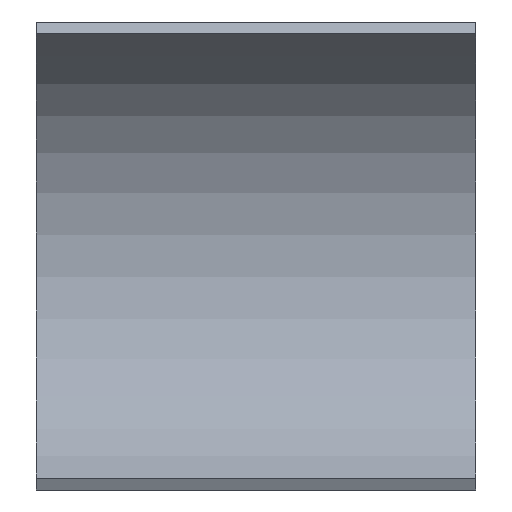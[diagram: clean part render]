
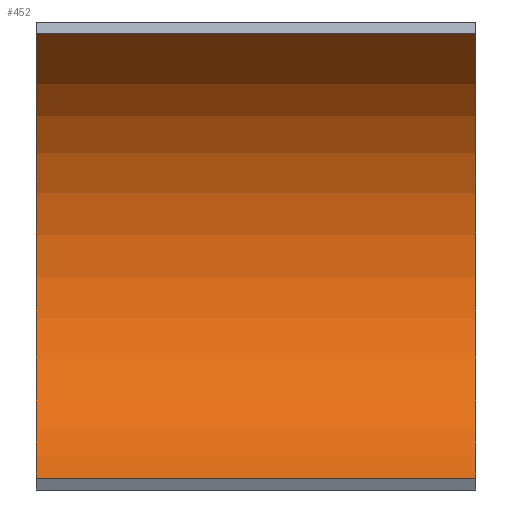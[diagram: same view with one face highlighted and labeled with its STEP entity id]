
A CAD part, top view. The second image highlights one B-rep face of the part: STEP entity #452.
In plain terms, the highlighted cylindrical face has radius 112.65 mm (diameter 225.3 mm), a partial arc.
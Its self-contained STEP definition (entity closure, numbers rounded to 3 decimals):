
#56=FACE_OUTER_BOUND('',#81,.T.);
#81=EDGE_LOOP('',(#383,#384,#385,#386));
#124=LINE('',#719,#174);
#132=LINE('',#736,#182);
#174=VECTOR('',#590,10.);
#182=VECTOR('',#606,10.);
#205=CIRCLE('',#507,112.65);
#206=CIRCLE('',#508,112.65);
#232=VERTEX_POINT('',#716);
#233=VERTEX_POINT('',#718);
#237=VERTEX_POINT('',#732);
#238=VERTEX_POINT('',#734);
#284=EDGE_CURVE('',#232,#233,#124,.T.);
#294=EDGE_CURVE('',#237,#238,#132,.T.);
#295=EDGE_CURVE('',#232,#237,#205,.T.);
#296=EDGE_CURVE('',#233,#238,#206,.T.);
#383=ORIENTED_EDGE('',*,*,#295,.T.);
#384=ORIENTED_EDGE('',*,*,#294,.T.);
#385=ORIENTED_EDGE('',*,*,#296,.F.);
#386=ORIENTED_EDGE('',*,*,#284,.F.);
#436=CYLINDRICAL_SURFACE('',#506,112.65);
#452=ADVANCED_FACE('',(#56),#436,.F.);
#506=AXIS2_PLACEMENT_3D('',#737,#607,#608);
#507=AXIS2_PLACEMENT_3D('',#738,#609,#610);
#508=AXIS2_PLACEMENT_3D('',#739,#611,#612);
#590=DIRECTION('',(1.,0.,0.));
#606=DIRECTION('',(1.,0.,0.));
#607=DIRECTION('center_axis',(1.,0.,0.));
#608=DIRECTION('ref_axis',(0.,-1.,0.));
#609=DIRECTION('center_axis',(-1.,0.,0.));
#610=DIRECTION('ref_axis',(0.,-1.,0.));
#611=DIRECTION('center_axis',(-1.,0.,0.));
#612=DIRECTION('ref_axis',(0.,-1.,0.));
#716=CARTESIAN_POINT('',(-65.,101.095,300.303));
#718=CARTESIAN_POINT('',(135.,101.095,300.303));
#719=CARTESIAN_POINT('',(-65.,101.095,300.303));
#732=CARTESIAN_POINT('',(-65.,-101.095,300.303));
#734=CARTESIAN_POINT('',(135.,-101.095,300.303));
#736=CARTESIAN_POINT('',(-65.,-101.095,300.303));
#737=CARTESIAN_POINT('Origin',(-65.,0.,350.));
#738=CARTESIAN_POINT('Origin',(-65.,0.,350.));
#739=CARTESIAN_POINT('Origin',(135.,0.,350.));
